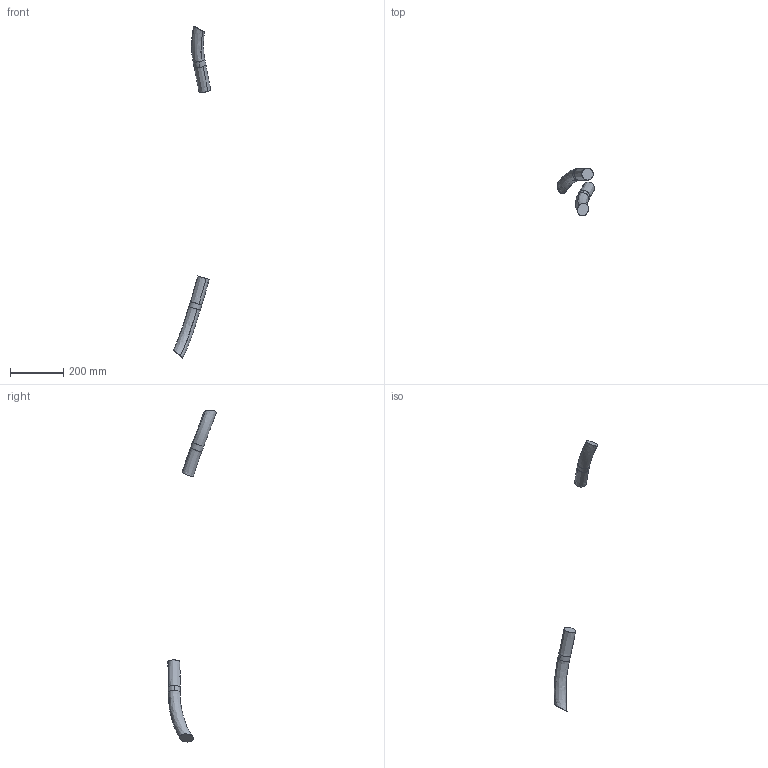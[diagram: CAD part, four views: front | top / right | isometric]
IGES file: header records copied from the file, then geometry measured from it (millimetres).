
Start section: SolidWorks IGES file using analytic representation for surfaces
Global section: file name: C:\Data\SAP_DOC\IRB6740_lightweight\6750S\IRB 6750S ASM\IRB6750S_215kg-390_OC_01_SW_J\IRB6750S_215kg-390_OC_01_IGES_J\IRB6750S-ALL-OC_00_LINK02m_CABLE.igs; native system: SolidWorks 2024; preprocessor: SolidWorks 2024; author: SEJAOLS6; date: 260513.072032; units: millimetre
Bounding box: 139.51 x 181.03 x 1245.74 mm (x, y, z)
Surface area: 85449.1 mm2 (no closed solid volume)
Topology: 0 solids, 0 shells, 16 faces, 496 edges, 496 vertices
Faces by surface type: bspline 12, revolution 4
